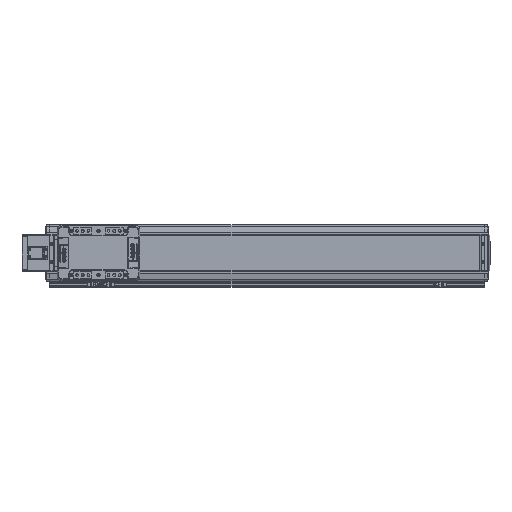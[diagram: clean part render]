
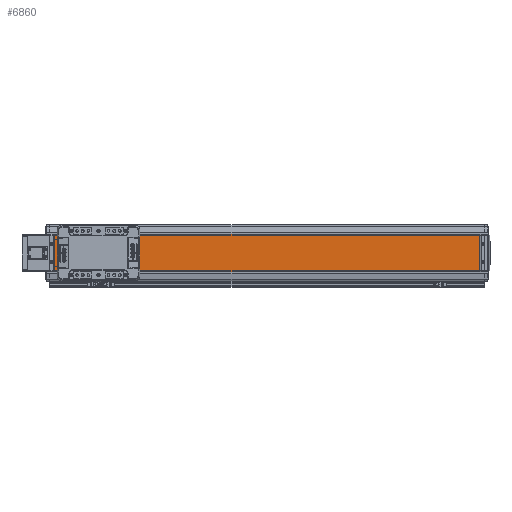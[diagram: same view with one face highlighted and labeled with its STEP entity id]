
A CAD part, top view. The second image highlights one B-rep face of the part: STEP entity #6860.
In plain terms, the highlighted planar face has unit normal (0, 0, 1).
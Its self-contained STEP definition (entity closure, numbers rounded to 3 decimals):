
#6860=ADVANCED_FACE('',(#15616),#15617,.F.);
#15616=FACE_OUTER_BOUND('',#27520,.T.);
#15617=PLANE('',#27521);
#27520=EDGE_LOOP('',(#47060,#47061,#47062,#47063));
#27521=AXIS2_PLACEMENT_3D('',#47064,#47065,#47066);
#47060=ORIENTED_EDGE('',*,*,#71151,.F.);
#47061=ORIENTED_EDGE('',*,*,#71670,.F.);
#47062=ORIENTED_EDGE('',*,*,#73356,.F.);
#47063=ORIENTED_EDGE('',*,*,#73830,.T.);
#47064=CARTESIAN_POINT('',(0.,0.,26.));
#47065=DIRECTION('',(0.,0.,-1.0));
#47066=DIRECTION('',(0.,1.0,0.));
#71151=EDGE_CURVE('',#86205,#86207,#86208,.T.);
#71670=EDGE_CURVE('',#87043,#86205,#87045,.T.);
#73356=EDGE_CURVE('',#89685,#87043,#89687,.T.);
#73830=EDGE_CURVE('',#89685,#86207,#90389,.T.);
#86205=VERTEX_POINT('',#106691);
#86207=VERTEX_POINT('',#106694);
#86208=LINE('',#106695,#106696);
#87043=VERTEX_POINT('',#107844);
#87045=LINE('',#107847,#107848);
#89685=VERTEX_POINT('',#112111);
#89687=LINE('',#112114,#112115);
#90389=LINE('',#113045,#113046);
#106691=CARTESIAN_POINT('',(1160.0,50.,26.));
#106694=CARTESIAN_POINT('',(1160.0,-50.,26.));
#106695=CARTESIAN_POINT('',(1160.0,-50.,26.));
#106696=VECTOR('',#129432,10.0);
#107844=CARTESIAN_POINT('',(0.,50.,26.));
#107847=CARTESIAN_POINT('',(0.,50.,26.));
#107848=VECTOR('',#130140,10.0);
#112111=CARTESIAN_POINT('',(0.,-50.,26.));
#112114=CARTESIAN_POINT('',(0.,-50.,26.));
#112115=VECTOR('',#132472,10.0);
#113045=CARTESIAN_POINT('',(0.,-50.,26.));
#113046=VECTOR('',#133139,10.0);
#129432=DIRECTION('',(0.,-1.0,0.));
#130140=DIRECTION('',(1.0,0.,0.));
#132472=DIRECTION('',(0.,1.0,0.));
#133139=DIRECTION('',(1.0,0.,0.));
